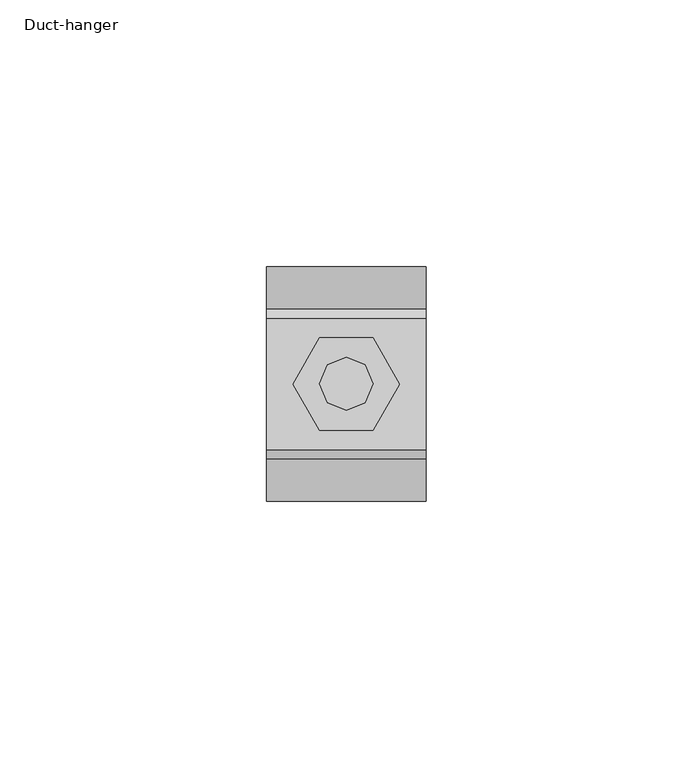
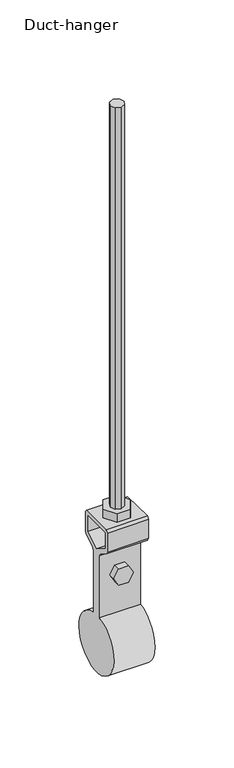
"""IFC4 building model written with IfcOpenShell, lengths in millimetres: proxy geometry, Duct-hanger : Φ44."""

from ifc_helpers import new_model, si_unit, point, frame, frame_2d, origin, place, context, project, spatial, polyline, circle_curve, trimmed, segment, composite_curve, outline, extrude, source, transform, mapped, element, save


def duct_hanger_e7696182(model_context):
    return source(origin(), model_context, "Body", "SweptSolid", [
        extrude(outline(polyline([(3.5351563, 3.5351563), (5.0003052, 0.0), (3.5351563, -3.5351563), (0.0, -5.0), (-3.5354614, -3.5351563), (-5.0, 0.0), (-3.5354614, 3.5351563), (0.0, 5.0), (3.5351563, 3.5351563)])), frame((0.0, 0.0, -315.7608558), z_axis=(0.0, 0.0, 1.0), x_axis=(1.0, 0.0, 0.0)), (0.0, 0.0, 1.0), 315.7608558),
        extrude(outline(polyline([(5.0, 8.659668), (10.0, 0.0), (5.0, -8.659668), (-5.0, -8.659668), (-10.0, 0.0), (-5.0, 8.659668), (5.0, 8.659668)])), frame((0.0, 0.0, -315.7608558), z_axis=(0.0, 0.0, 1.0), x_axis=(1.0, 0.0, 0.0)), (0.0, 0.0, 1.0), 6.6101074),
        extrude(outline(polyline([(-352.7761856, -3.5931396), (-358.9996353, -7.1862793), (-365.223085, -3.5931396), (-365.223085, 3.5931396), (-358.9996353, 7.1862793), (-352.7761856, 3.5931396), (-352.7761856, -3.5931396)])), frame((0.0, -8.2446289, 0.0), z_axis=(0.0, 1.0, 0.0), x_axis=(0.0, 0.0, 1.0)), (0.0, 0.0, 1.0), 16.4892578),
        extrude(outline(composite_curve([segment(polyline([(14.0234375, -317.429557), (14.0234375, -332.0792152), (12.8845215, -334.1455604), (4.6337891, -339.3533851), (3.494873, -341.4203407), (3.494873, -388.9996353)]), True, "CONTINUOUS"), segment(trimmed(circle_curve(frame_2d((0.0, -410.7202674)), 22.0), [point((3.494873, -388.9996353))], [point((-3.494873, -388.9996353))], False, "CARTESIAN"), True, "CONTINUOUS"), segment(polyline([(-3.494873, -388.9996353), (-3.494873, -341.4203407), (-4.6337891, -339.3533851), (-12.8845215, -334.1455604), (-14.0234375, -332.0792152), (-14.0234375, -317.429557), (-12.3547363, -315.7608558), (12.3547363, -315.7608558), (14.0234375, -317.429557)]), True, "CONTINUOUS")], self_intersect=False), holes=[polyline([(0.0, -338.0272321), (10.7531738, -331.2405922), (10.7531738, -319.0143348), (-10.7531738, -319.0143348), (-10.7531738, -331.2405922), (0.0, -338.0272321)])]), frame((-15.0, 0.0, 0.0), z_axis=(1.0, 0.0, 0.0), x_axis=(0.0, 1.0, 0.0)), (0.0, 0.0, 1.0), 30.0),
    ])


if __name__ == "__main__":
    model = new_model("IFC4")
    model_context = context("Model", 3, world=origin())
    ifc_project = project(units=[si_unit("LENGTHUNIT", "METRE", prefix="MILLI")], contexts=[model_context])
    site = spatial("IfcSite", under=ifc_project)
    building = spatial("IfcBuilding", under=site)
    placement = place(None, origin())
    duct_hanger_shape = duct_hanger_e7696182(model_context)
    element("IfcBuildingElementProxy", 1, Name="Duct-hanger : Φ44", ObjectType="Duct-hanger : Φ44", at=placement, inside=building, context=model_context, shape_type="MappedRepresentation", body=[
        mapped(duct_hanger_shape, transform((0.0, 0.0, 0.0), x_axis=(1.0, 0.0, 0.0), y_axis=(0.0, 1.0, 0.0), z_axis=(0.0, 0.0, 1.0))),
    ])
    save(model, "model.ifc")
